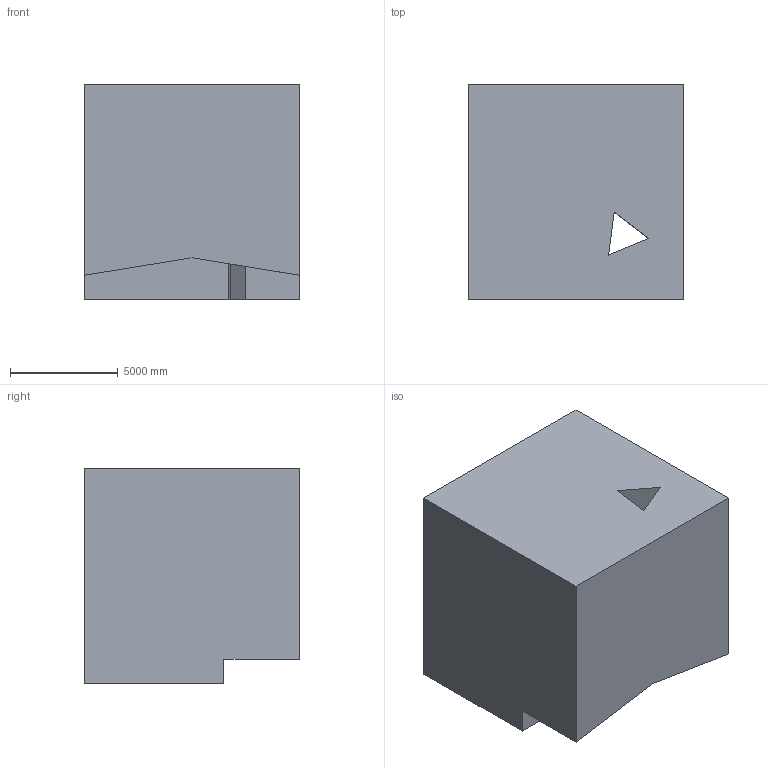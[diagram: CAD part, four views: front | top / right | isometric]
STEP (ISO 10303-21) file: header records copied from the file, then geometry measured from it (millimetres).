
FILE_DESCRIPTION (( 'STEP AP203' ), '1' );
FILE_NAME ('1165.STEP', '2022-08-18T13:01:01', ( 'user' ), ( '' ), 'SwSTEP 2.0', 'SolidWorks 2021', '' );
FILE_SCHEMA (( 'CONFIG_CONTROL_DESIGN' ));
Length unit declared in the file: centimetre
Products named in the file (1): 1165
Bounding box: 10000 x 10000 x 10000 mm (x, y, z)
Volume: 930552848600.6 mm3; surface area: 640840398.4 mm2
Topology: 1 solids, 1 shells, 13 faces, 36 edges, 24 vertices
Faces by surface type: plane 13
Entity records: 491 total; most frequent: CARTESIAN_POINT 74, ORIENTED_EDGE 72, DIRECTION 64, EDGE_CURVE 36, VECTOR 36, LINE 36, VERTEX_POINT 24, EDGE_LOOP 14
